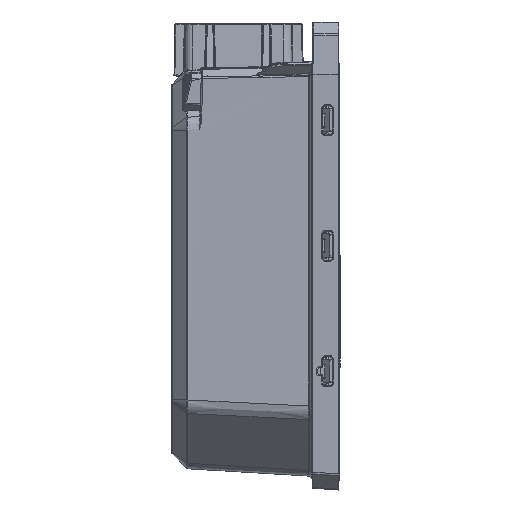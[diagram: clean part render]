
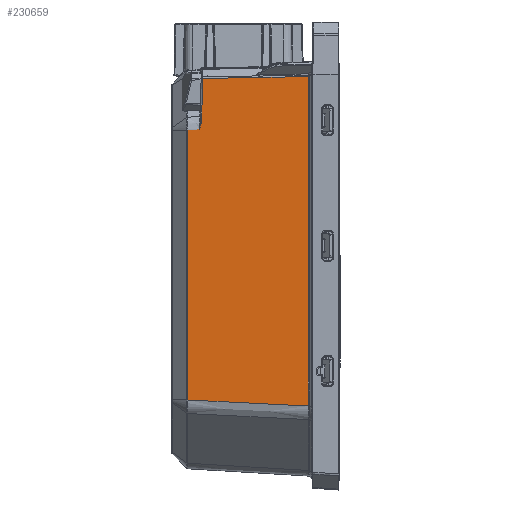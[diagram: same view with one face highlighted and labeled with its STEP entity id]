
A CAD part, left-side view. The second image highlights one B-rep face of the part: STEP entity #230659.
In plain terms, the highlighted cylindrical face has radius 3000 mm (diameter 6000 mm), a partial arc.
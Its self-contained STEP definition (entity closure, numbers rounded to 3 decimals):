
#5467 = VECTOR ( 'NONE', #52296, 1000. ) ;
#6169 = DIRECTION ( 'NONE',  ( 1., 0., 0. ) ) ;
#10222 = CARTESIAN_POINT ( 'NONE',  ( -47.332, 51.031, -113.013 ) ) ;
#14405 = CARTESIAN_POINT ( 'NONE',  ( -47.332, 51.031, -139.5 ) ) ;
#19925 = CARTESIAN_POINT ( 'NONE',  ( -47.587, 46.346, -18.235 ) ) ;
#22138 = CARTESIAN_POINT ( 'NONE',  ( -47.332, 51.031, -139.5 ) ) ;
#33111 = CARTESIAN_POINT ( 'NONE',  ( -47.542, 47.156, -21.346 ) ) ;
#36976 = CARTESIAN_POINT ( 'NONE',  ( -47.562, 46.783, -20.335 ) ) ;
#38352 = CARTESIAN_POINT ( 'NONE',  ( -47.584, 46.383, -18.773 ) ) ;
#38434 = EDGE_CURVE ( 'NONE', #208038, #142293, #268570, .T. ) ;
#39740 = CARTESIAN_POINT ( 'NONE',  ( -47.579, 46.481, -19.3 ) ) ;
#42090 = EDGE_CURVE ( 'NONE', #142293, #256210, #226384, .T. ) ;
#52296 = DIRECTION ( 'NONE',  ( 0., 0., 1. ) ) ;
#53357 = EDGE_CURVE ( 'NONE', #94684, #240588, #64693, .T. ) ;
#64693 = B_SPLINE_CURVE_WITH_KNOTS ( 'NONE', 3,
 ( #19925, #212142, #38352, #39740, #234798, #190934, #36976, #210756, #256011, #192344 ),
 .UNSPECIFIED., .F., .F.,
 ( 4, 2, 2, 2, 4 ),
 ( 0., 0.001, 0.002, 0.002, 0.003 ),
 .UNSPECIFIED. ) ;
#74086 = CARTESIAN_POINT ( 'NONE',  ( -48.26, 34.149, -3.907 ) ) ;
#74875 = VERTEX_POINT ( 'NONE', #104643 ) ;
#75344 = DIRECTION ( 'NONE',  ( 0., 0., 1. ) ) ;
#76609 = CARTESIAN_POINT ( 'NONE',  ( -48.88, 23.842, -114.346 ) ) ;
#76955 = ORIENTED_EDGE ( 'NONE', *, *, #244982, .T. ) ;
#84845 = CARTESIAN_POINT ( 'NONE',  ( -47.591, 46.264, -13.529 ) ) ;
#85283 = CARTESIAN_POINT ( 'NONE',  ( -49.793, 10.26, -3.49 ) ) ;
#87644 = CARTESIAN_POINT ( 'NONE',  ( -47.6, 46.099, -4.116 ) ) ;
#91009 = ORIENTED_EDGE ( 'NONE', *, *, #42090, .T. ) ;
#94258 = EDGE_LOOP ( 'NONE', ( #274535, #184406, #155168, #265672, #262764, #76955, #235120, #91009 ) ) ;
#94659 = CARTESIAN_POINT ( 'NONE',  ( -49.793, 10.26, -139.5 ) ) ;
#94684 = VERTEX_POINT ( 'NONE', #130177 ) ;
#104643 = CARTESIAN_POINT ( 'NONE',  ( -47.332, 51.031, -113.013 ) ) ;
#106919 = EDGE_CURVE ( 'NONE', #256210, #94684, #268857, .T. ) ;
#108330 = DIRECTION ( 'NONE',  ( 0., 0., -1. ) ) ;
#116229 = CARTESIAN_POINT ( 'NONE',  ( -49.793, 10.26, -115.07 ) ) ;
#116354 = CARTESIAN_POINT ( 'NONE',  ( -3043.043, 211.387, -139.5 ) ) ;
#118497 = CARTESIAN_POINT ( 'NONE',  ( -47.471, 48.448, -21.436 ) ) ;
#126183 = B_SPLINE_CURVE_WITH_KNOTS ( 'NONE', 3,
 ( #10222, #270309, #76609, #116229 ),
 .UNSPECIFIED., .F., .F.,
 ( 4, 4 ),
 ( 0.005, 0.046 ),
 .UNSPECIFIED. ) ;
#126676 = VERTEX_POINT ( 'NONE', #232286 ) ;
#130177 = CARTESIAN_POINT ( 'NONE',  ( -47.587, 46.346, -18.235 ) ) ;
#134669 = VERTEX_POINT ( 'NONE', #197115 ) ;
#138372 = EDGE_CURVE ( 'NONE', #126676, #74875, #212195, .T. ) ;
#142293 = VERTEX_POINT ( 'NONE', #85283 ) ;
#151062 = VECTOR ( 'NONE', #256061, 1000. ) ;
#155168 = ORIENTED_EDGE ( 'NONE', *, *, #197294, .T. ) ;
#160909 = CARTESIAN_POINT ( 'NONE',  ( -47.332, 51.031, -21.619 ) ) ;
#164430 = CARTESIAN_POINT ( 'NONE',  ( -48.991, 22.202, -3.699 ) ) ;
#178586 = FACE_OUTER_BOUND ( 'NONE', #94258, .T. ) ;
#184406 = ORIENTED_EDGE ( 'NONE', *, *, #53357, .T. ) ;
#186262 = CARTESIAN_POINT ( 'NONE',  ( -47.401, 49.739, -21.527 ) ) ;
#190934 = CARTESIAN_POINT ( 'NONE',  ( -47.567, 46.698, -20.079 ) ) ;
#192344 = CARTESIAN_POINT ( 'NONE',  ( -47.542, 47.156, -21.346 ) ) ;
#194538 = LINE ( 'NONE', #22138, #260593 ) ;
#197115 = CARTESIAN_POINT ( 'NONE',  ( -47.332, 51.031, -21.619 ) ) ;
#197294 = EDGE_CURVE ( 'NONE', #240588, #134669, #216941, .T. ) ;
#204727 = CARTESIAN_POINT ( 'NONE',  ( -47.542, 47.156, -21.346 ) ) ;
#207685 = CARTESIAN_POINT ( 'NONE',  ( -49.793, 10.26, -115.07 ) ) ;
#208038 = VERTEX_POINT ( 'NONE', #207685 ) ;
#210756 = CARTESIAN_POINT ( 'NONE',  ( -47.553, 46.964, -20.842 ) ) ;
#212142 = CARTESIAN_POINT ( 'NONE',  ( -47.586, 46.35, -18.506 ) ) ;
#212195 = LINE ( 'NONE', #14405, #151062 ) ;
#216267 = CARTESIAN_POINT ( 'NONE',  ( -47.587, 46.346, -18.235 ) ) ;
#216941 =( BOUNDED_CURVE ( )  B_SPLINE_CURVE ( 3, ( #204727, #118497, #186262, #160909 ),
 .UNSPECIFIED., .F., .F. ) 
 B_SPLINE_CURVE_WITH_KNOTS ( ( 4, 4 ),
 ( 0.063, 0.064 ),
 .UNSPECIFIED. ) 
 CURVE ( )  GEOMETRIC_REPRESENTATION_ITEM ( )  RATIONAL_B_SPLINE_CURVE ( ( 1., 1., 1., 1. ) ) 
 REPRESENTATION_ITEM ( '' )  );
#221037 = CYLINDRICAL_SURFACE ( 'NONE', #223077, 3000. ) ;
#223077 = AXIS2_PLACEMENT_3D ( 'NONE', #116354, #75344, #6169 ) ;
#226384 = B_SPLINE_CURVE_WITH_KNOTS ( 'NONE', 3,
 ( #271954, #164430, #74086, #252120 ),
 .UNSPECIFIED., .F., .F.,
 ( 4, 4 ),
 ( 0., 0.036 ),
 .UNSPECIFIED. ) ;
#230659 = ADVANCED_FACE ( 'NONE', ( #178586 ), #221037, .F. ) ;
#232286 = CARTESIAN_POINT ( 'NONE',  ( -47.332, 51.031, -21.62 ) ) ;
#234798 = CARTESIAN_POINT ( 'NONE',  ( -47.575, 46.546, -19.561 ) ) ;
#235120 = ORIENTED_EDGE ( 'NONE', *, *, #38434, .T. ) ;
#236318 = CARTESIAN_POINT ( 'NONE',  ( -47.6, 46.099, -4.116 ) ) ;
#240588 = VERTEX_POINT ( 'NONE', #33111 ) ;
#244982 = EDGE_CURVE ( 'NONE', #74875, #208038, #126183, .T. ) ;
#252120 = CARTESIAN_POINT ( 'NONE',  ( -47.6, 46.099, -4.116 ) ) ;
#256011 = CARTESIAN_POINT ( 'NONE',  ( -47.547, 47.06, -21.095 ) ) ;
#256061 = DIRECTION ( 'NONE',  ( 0., 0., -1. ) ) ;
#256210 = VERTEX_POINT ( 'NONE', #236318 ) ;
#258732 = CARTESIAN_POINT ( 'NONE',  ( -47.596, 46.181, -8.822 ) ) ;
#260593 = VECTOR ( 'NONE', #108330, 1000. ) ;
#262764 = ORIENTED_EDGE ( 'NONE', *, *, #138372, .T. ) ;
#263212 = EDGE_CURVE ( 'NONE', #134669, #126676, #194538, .T. ) ;
#265672 = ORIENTED_EDGE ( 'NONE', *, *, #263212, .T. ) ;
#268570 = LINE ( 'NONE', #94659, #5467 ) ;
#268857 =( BOUNDED_CURVE ( )  B_SPLINE_CURVE ( 3, ( #87644, #258732, #84845, #216267 ),
 .UNSPECIFIED., .F., .F. ) 
 B_SPLINE_CURVE_WITH_KNOTS ( ( 4, 4 ),
 ( 1.516, 1.516 ),
 .UNSPECIFIED. ) 
 CURVE ( )  GEOMETRIC_REPRESENTATION_ITEM ( )  RATIONAL_B_SPLINE_CURVE ( ( 1., 1., 1., 1. ) ) 
 REPRESENTATION_ITEM ( '' )  );
#270309 = CARTESIAN_POINT ( 'NONE',  ( -48.06, 37.433, -113.66 ) ) ;
#271954 = CARTESIAN_POINT ( 'NONE',  ( -49.793, 10.26, -3.49 ) ) ;
#274535 = ORIENTED_EDGE ( 'NONE', *, *, #106919, .T. ) ;
